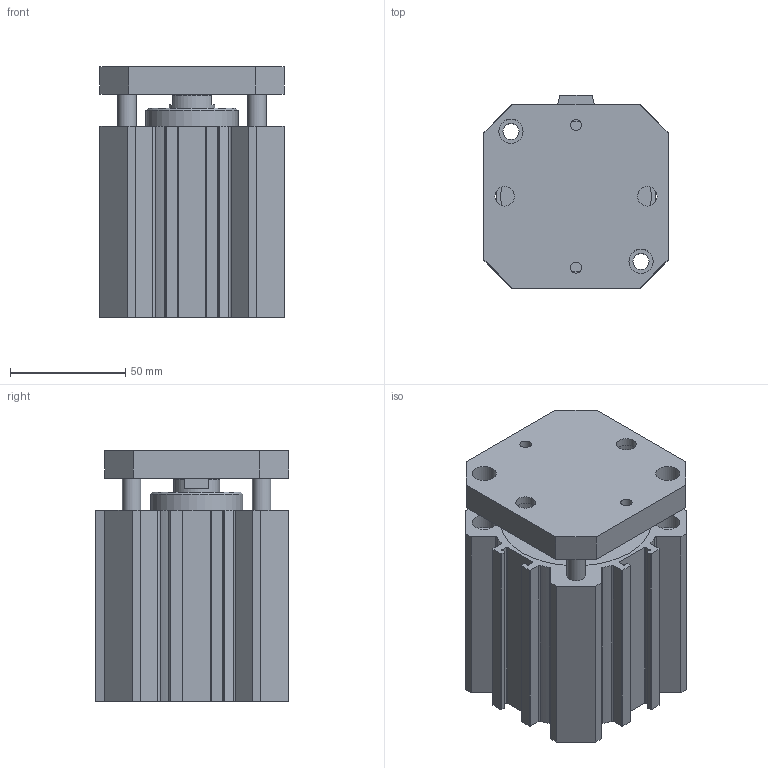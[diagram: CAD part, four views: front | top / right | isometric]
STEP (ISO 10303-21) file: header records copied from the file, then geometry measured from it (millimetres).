
FILE_DESCRIPTION(/* description */ ('TUBO PROFILATO COMPATTI Ø40'),/* implementation_level */ '2;1');
FILE_NAME(/* name */ 'I:\Area Tecnica\Disegni\VARIE-3D\Componenti\1500\Ø63\15##_63_####_#\1501_63_0045_AR.stp',/* time_stamp */ '2016-08-24T13:52:30+02:00',/* author */ ('Maniean1'),/* organization */ ('Pneumax S.p.A.'),/* preprocessor_version */ 'ST-DEVELOPER v15.2',/* originating_system */ 'Autodesk Inventor 2014',/* authorisation */ '');
FILE_SCHEMA (('AUTOMOTIVE_DESIGN { 1 0 10303 214 3 1 1 }'));
Length unit declared in the file: millimetre
Products named in the file (3): C_1501_63_0045_AR; S_1501_63_0045_AR; 1501_63_0045_AR
Bounding box: 80 x 84 x 109 mm (x, y, z)
Volume: 381045.5 mm3; surface area: 108536.8 mm2
Topology: 2 solids, 2 shells, 185 faces, 481 edges, 322 vertices
Faces by surface type: plane 94, cylinder 86, cone 5
Full cylindrical faces by diameter (mm): 4.917 x2, 7 x4, 8 x4, 8.5 x2, 8.566 x2, 10.5 x8, 13.5 x2, 20 x2, 40 x2, 63 x2, 65.5 x2
Entity records: 5739 total; most frequent: DIRECTION 994, CARTESIAN_POINT 950, ORIENTED_EDGE 876, EDGE_CURVE 438, AXIS2_PLACEMENT_3D 370, VERTEX_POINT 314, EDGE_LOOP 262, LINE 254
